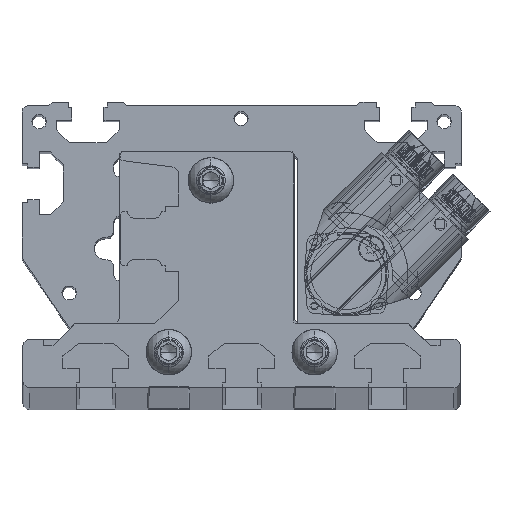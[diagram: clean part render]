
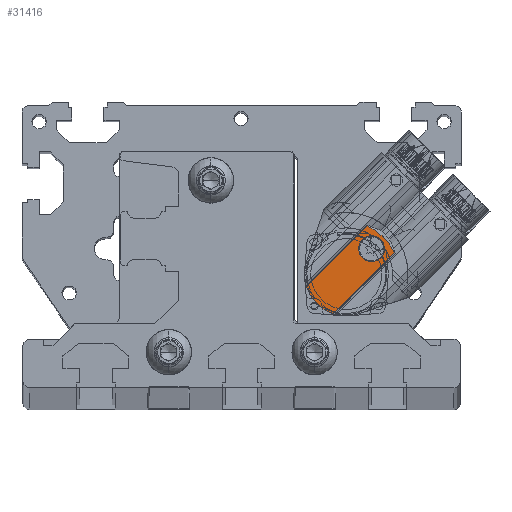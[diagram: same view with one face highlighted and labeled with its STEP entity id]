
A CAD part, top view. The second image highlights one B-rep face of the part: STEP entity #31416.
In plain terms, the highlighted planar face has unit normal (0, 0, 1).
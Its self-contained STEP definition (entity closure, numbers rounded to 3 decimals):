
#530 = VERTEX_POINT ( 'NONE', #3656 ) ;
#532 = VERTEX_POINT ( 'NONE', #3666 ) ;
#1309 = CIRCLE ( 'NONE', #39402, 4. ) ;
#2527 = EDGE_CURVE ( 'NONE', #4214, #4216, #40873, .T. ) ;
#3656 = CARTESIAN_POINT ( 'NONE',  ( -3.968, -12.275, 18.8 ) ) ;
#3666 = CARTESIAN_POINT ( 'NONE',  ( 14.874, 6.567, 18.8 ) ) ;
#4214 = VERTEX_POINT ( 'NONE', #42491 ) ;
#4216 = VERTEX_POINT ( 'NONE', #42528 ) ;
#4935 = VERTEX_POINT ( 'NONE', #18481 ) ;
#4936 = VERTEX_POINT ( 'NONE', #18473 ) ;
#10372 = EDGE_CURVE ( 'NONE', #4936, #4935, #1309, .T. ) ;
#14299 = AXIS2_PLACEMENT_3D ( 'NONE', #19577, #19579, #19581 ) ;
#14300 = AXIS2_PLACEMENT_3D ( 'NONE', #19583, #19585, #19587 ) ;
#15181 = AXIS2_PLACEMENT_3D ( 'NONE', #24732, #24733, #24734 ) ;
#16178 = B_SPLINE_CURVE_WITH_KNOTS ( 'NONE', 3,
 ( #18282, #18285, #18287, #18290, #18292, #18294, #18296, #18298, #18299, #18301, #18303, #18305 ),
 .UNSPECIFIED., .F., .F.,
 ( 4, 2, 2, 2, 2, 4 ),
 ( 0., 0.003, 0.006, 0.007, 0.009, 0.012 ),
 .UNSPECIFIED. ) ;
#17173 = DIRECTION ( 'NONE',  ( -0.707, -0.707, 0. ) ) ;
#17174 = DIRECTION ( 'NONE',  ( 0., 0., -1. ) ) ;
#17175 = CARTESIAN_POINT ( 'NONE',  ( 7.778, 7.778, 18.8 ) ) ;
#18265 = CARTESIAN_POINT ( 'NONE',  ( 13.735, 5.428, 18.8 ) ) ;
#18267 = DIRECTION ( 'NONE',  ( 0.707, 0.707, 0. ) ) ;
#18282 = CARTESIAN_POINT ( 'NONE',  ( 14.874, 6.567, 18.8 ) ) ;
#18285 = CARTESIAN_POINT ( 'NONE',  ( 14.421, 7.463, 18.8 ) ) ;
#18287 = CARTESIAN_POINT ( 'NONE',  ( 13.902, 8.311, 18.8 ) ) ;
#18290 = CARTESIAN_POINT ( 'NONE',  ( 12.741, 9.914, 18.8 ) ) ;
#18292 = CARTESIAN_POINT ( 'NONE',  ( 12.098, 10.67, 18.8 ) ) ;
#18294 = CARTESIAN_POINT ( 'NONE',  ( 11.037, 11.732, 18.8 ) ) ;
#18296 = CARTESIAN_POINT ( 'NONE',  ( 10.668, 12.073, 18.8 ) ) ;
#18298 = CARTESIAN_POINT ( 'NONE',  ( 9.909, 12.72, 18.8 ) ) ;
#18299 = CARTESIAN_POINT ( 'NONE',  ( 9.519, 13.027, 18.8 ) ) ;
#18301 = CARTESIAN_POINT ( 'NONE',  ( 8.312, 13.902, 18.8 ) ) ;
#18303 = CARTESIAN_POINT ( 'NONE',  ( 7.463, 14.421, 18.8 ) ) ;
#18305 = CARTESIAN_POINT ( 'NONE',  ( 6.567, 14.874, 18.8 ) ) ;
#18473 = CARTESIAN_POINT ( 'NONE',  ( 4.95, 4.95, 18.8 ) ) ;
#18481 = CARTESIAN_POINT ( 'NONE',  ( 10.607, 10.607, 18.8 ) ) ;
#19577 = CARTESIAN_POINT ( 'NONE',  ( 0., 0., 18.8 ) ) ;
#19579 = DIRECTION ( 'NONE',  ( 0., 0., -1. ) ) ;
#19581 = DIRECTION ( 'NONE',  ( 0.707, -0.707, 0. ) ) ;
#19583 = CARTESIAN_POINT ( 'NONE',  ( 7.778, 7.778, 18.8 ) ) ;
#19585 = DIRECTION ( 'NONE',  ( 0., 0., -1. ) ) ;
#19587 = DIRECTION ( 'NONE',  ( -0.707, -0.707, 0. ) ) ;
#19969 = CIRCLE ( 'NONE', #14299, 12.9 ) ;
#19970 = CIRCLE ( 'NONE', #14300, 4. ) ;
#22194 = ORIENTED_EDGE ( 'NONE', *, *, #2527, .T. ) ;
#22196 = ORIENTED_EDGE ( 'NONE', *, *, #30835, .T. ) ;
#22198 = ORIENTED_EDGE ( 'NONE', *, *, #30833, .T. ) ;
#22200 = ORIENTED_EDGE ( 'NONE', *, *, #30963, .F. ) ;
#22201 = ORIENTED_EDGE ( 'NONE', *, *, #30964, .T. ) ;
#22203 = ORIENTED_EDGE ( 'NONE', *, *, #10372, .T. ) ;
#23914 = FACE_BOUND ( 'NONE', #37959, .T. ) ;
#23915 = FACE_OUTER_BOUND ( 'NONE', #37946, .T. ) ;
#24731 = PLANE ( 'NONE',  #15181 ) ;
#24732 = CARTESIAN_POINT ( 'NONE',  ( 9.581, 9.581, 18.8 ) ) ;
#24733 = DIRECTION ( 'NONE',  ( 0., 0., 1. ) ) ;
#24734 = DIRECTION ( 'NONE',  ( 0.707, -0.707, 0. ) ) ;
#30833 = EDGE_CURVE ( 'NONE', #530, #532, #42290, .T. ) ;
#30835 = EDGE_CURVE ( 'NONE', #532, #4214, #16178, .T. ) ;
#30963 = EDGE_CURVE ( 'NONE', #530, #4216, #19969, .T. ) ;
#30964 = EDGE_CURVE ( 'NONE', #4935, #4936, #19970, .T. ) ;
#31416 = ADVANCED_FACE ( 'NONE', ( #23914, #23915 ), #24731, .T. ) ;
#37946 = EDGE_LOOP ( 'NONE', ( #22200, #22198, #22196, #22194 ) ) ;
#37959 = EDGE_LOOP ( 'NONE', ( #22203, #22201 ) ) ;
#39402 = AXIS2_PLACEMENT_3D ( 'NONE', #17175, #17174, #17173 ) ;
#40873 = LINE ( 'NONE', #43564, #40875 ) ;
#40875 = VECTOR ( 'NONE', #43560, 1000. ) ;
#42290 = LINE ( 'NONE', #18265, #42291 ) ;
#42291 = VECTOR ( 'NONE', #18267, 1000. ) ;
#42491 = CARTESIAN_POINT ( 'NONE',  ( 6.567, 14.874, 18.8 ) ) ;
#42528 = CARTESIAN_POINT ( 'NONE',  ( -12.275, -3.968, 18.8 ) ) ;
#43560 = DIRECTION ( 'NONE',  ( -0.707, -0.707, 0. ) ) ;
#43564 = CARTESIAN_POINT ( 'NONE',  ( 5.428, 13.735, 18.8 ) ) ;
